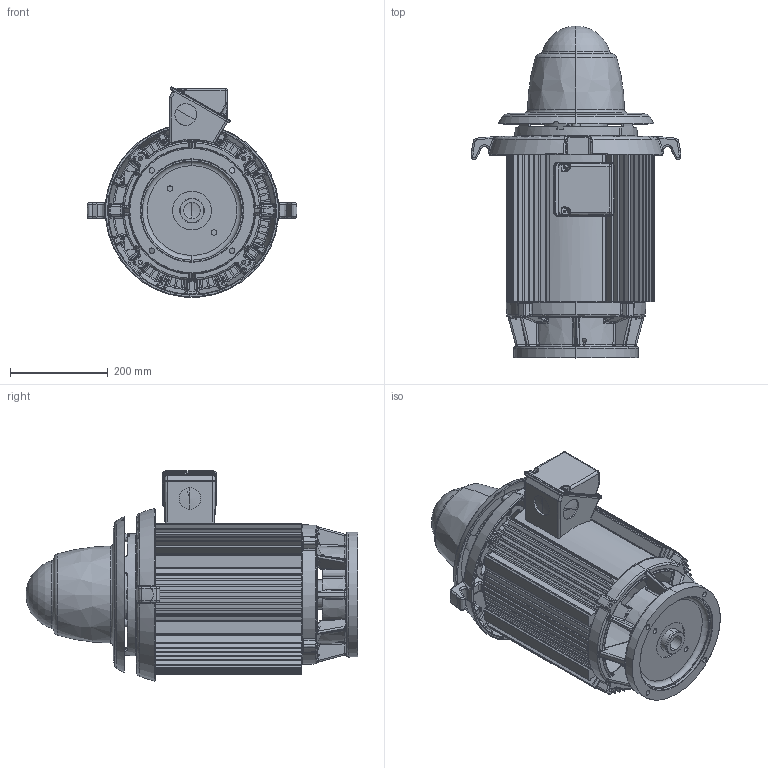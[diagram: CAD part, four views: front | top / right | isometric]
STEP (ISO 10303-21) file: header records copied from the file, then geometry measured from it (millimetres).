
FILE_DESCRIPTION((''),'2;1');
FILE_NAME('250AU_ASSY_ASM','2016-03-31T',('emd2341'),('Nidec Motor Corporation'),'PRO/ENGINEER BY PARAMETRIC TECHNOLOGY CORPORATION, 2013150','PRO/ENGINEER BY PARAMETRIC TECHNOLOGY CORPORATION, 2013150','');
FILE_SCHEMA(('CONFIG_CONTROL_DESIGN'));
Length unit declared in the file: inch
Products named in the file (9): 0380257_AF0; 0396184; 0380707; 0364229-OBB; 0364236; 0116910; SHAFT; 0396188-CAP; 250AU_ASSY_ASM
Assembly tree (8 placements, depth 2):
  250AU_ASSY_ASM
    0380257_AF0
    0396184
    0380707
    0364229-OBB
    0364236
    0116910
    SHAFT
    0396188-CAP
Bounding box: 428.26 x 677.75 x 429.37 mm (x, y, z)
Volume: 6902516.5 mm3; surface area: 2391259.1 mm2
Topology: 10 solids, 10 shells, 3376 faces, 8164 edges, 4759 vertices
Faces by surface type: bspline 1164, cylinder 822, plane 632, torus 363, cone 273, sphere 120, extrusion 2
Entity records: 149281 total; most frequent: CARTESIAN_POINT 79882, ORIENTED_EDGE 16224, DIRECTION 12275, EDGE_CURVE 8112, AXIS2_PLACEMENT_3D 5167, VERTEX_POINT 4759, EDGE_LOOP 3503, FACE_OUTER_BOUND 3376
